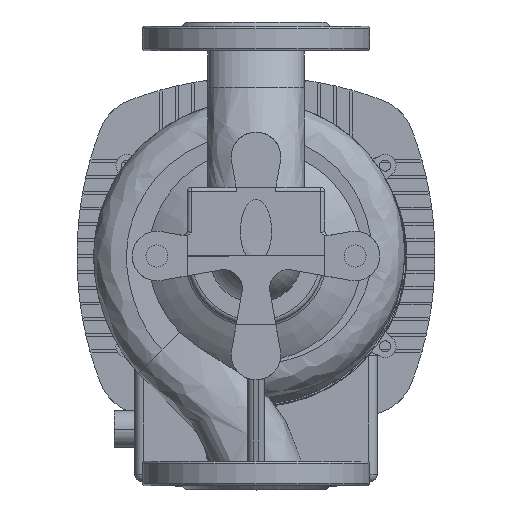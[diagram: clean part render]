
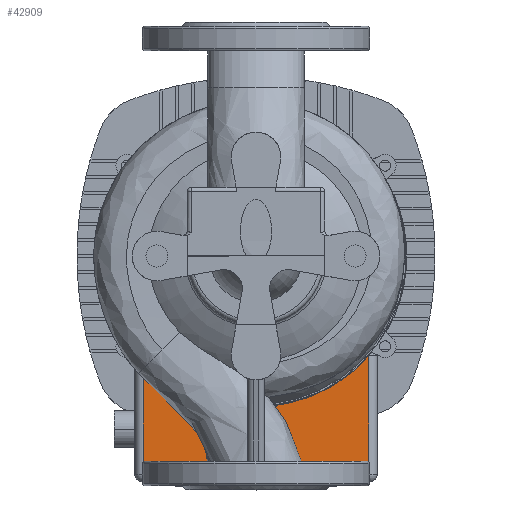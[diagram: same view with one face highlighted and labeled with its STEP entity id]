
A CAD part, front view. The second image highlights one B-rep face of the part: STEP entity #42909.
In plain terms, the highlighted planar face has unit normal (0, -1, 0).
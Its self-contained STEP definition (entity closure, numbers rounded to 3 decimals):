
#179 = DIRECTION ( 'NONE',  ( 0., 0., 1. ) ) ;
#2473 = AXIS2_PLACEMENT_3D ( 'NONE', #26283, #33254, #179 ) ;
#3639 = CARTESIAN_POINT ( 'NONE',  ( -82., 267.5, -72.569 ) ) ;
#3852 = CIRCLE ( 'NONE', #2473, 607. ) ;
#4419 = DIRECTION ( 'NONE',  ( 0., -1., 0. ) ) ;
#4594 = DIRECTION ( 'NONE',  ( -1., 0., 0. ) ) ;
#4978 = CARTESIAN_POINT ( 'NONE',  ( -82., 267.5, -158.436 ) ) ;
#5352 = PLANE ( 'NONE',  #15198 ) ;
#5569 = EDGE_CURVE ( 'NONE', #27084, #28992, #18145, .T. ) ;
#5829 = DIRECTION ( 'NONE',  ( 0., 1., 0. ) ) ;
#6881 = LINE ( 'NONE', #10564, #21454 ) ;
#7919 = ORIENTED_EDGE ( 'NONE', *, *, #5569, .T. ) ;
#8109 = ORIENTED_EDGE ( 'NONE', *, *, #30502, .T. ) ;
#8629 = DIRECTION ( 'NONE',  ( 0., 0., 1. ) ) ;
#9292 = CARTESIAN_POINT ( 'NONE',  ( 82., 267.5, -72.569 ) ) ;
#9974 = VERTEX_POINT ( 'NONE', #20330 ) ;
#10564 = CARTESIAN_POINT ( 'NONE',  ( -82., 267.5, -128.5 ) ) ;
#11953 = EDGE_CURVE ( 'NONE', #28992, #28811, #6881, .T. ) ;
#15198 = AXIS2_PLACEMENT_3D ( 'NONE', #34946, #32099, #8629 ) ;
#17675 = CARTESIAN_POINT ( 'NONE',  ( 0., 267.5, 443. ) ) ;
#18145 = CIRCLE ( 'NONE', #41739, 109.5 ) ;
#18800 = EDGE_CURVE ( 'NONE', #28811, #9974, #43028, .T. ) ;
#18814 = FACE_OUTER_BOUND ( 'NONE', #20140, .T. ) ;
#19703 = DIRECTION ( 'NONE',  ( 0., 0., 1. ) ) ;
#20140 = EDGE_LOOP ( 'NONE', ( #7919, #35169, #35949, #30964, #8109 ) ) ;
#20330 = CARTESIAN_POINT ( 'NONE',  ( 0., 267.5, -164. ) ) ;
#20337 = LINE ( 'NONE', #26210, #29278 ) ;
#20900 = CARTESIAN_POINT ( 'NONE',  ( 0., 267.5, 0. ) ) ;
#21454 = VECTOR ( 'NONE', #33826, 1000. ) ;
#22090 = EDGE_CURVE ( 'NONE', #9974, #39090, #3852, .T. ) ;
#26210 = CARTESIAN_POINT ( 'NONE',  ( 82., 267.5, -128.5 ) ) ;
#26283 = CARTESIAN_POINT ( 'NONE',  ( 0., 267.5, 443. ) ) ;
#27084 = VERTEX_POINT ( 'NONE', #9292 ) ;
#28811 = VERTEX_POINT ( 'NONE', #4978 ) ;
#28992 = VERTEX_POINT ( 'NONE', #3639 ) ;
#29278 = VECTOR ( 'NONE', #19703, 1000. ) ;
#30502 = EDGE_CURVE ( 'NONE', #39090, #27084, #20337, .T. ) ;
#30964 = ORIENTED_EDGE ( 'NONE', *, *, #22090, .T. ) ;
#32099 = DIRECTION ( 'NONE',  ( 0., -1., 0. ) ) ;
#33254 = DIRECTION ( 'NONE',  ( 0., -1., 0. ) ) ;
#33826 = DIRECTION ( 'NONE',  ( 0., 0., -1. ) ) ;
#34946 = CARTESIAN_POINT ( 'NONE',  ( -68., 267.5, -128.5 ) ) ;
#35169 = ORIENTED_EDGE ( 'NONE', *, *, #11953, .T. ) ;
#35949 = ORIENTED_EDGE ( 'NONE', *, *, #18800, .T. ) ;
#37287 = CARTESIAN_POINT ( 'NONE',  ( 82., 267.5, -158.436 ) ) ;
#39090 = VERTEX_POINT ( 'NONE', #37287 ) ;
#40303 = DIRECTION ( 'NONE',  ( 0., 0., 1. ) ) ;
#40947 = AXIS2_PLACEMENT_3D ( 'NONE', #17675, #4419, #40303 ) ;
#41739 = AXIS2_PLACEMENT_3D ( 'NONE', #20900, #5829, #4594 ) ;
#42909 = ADVANCED_FACE ( 'NONE', ( #18814 ), #5352, .T. ) ;
#43028 = CIRCLE ( 'NONE', #40947, 607. ) ;
